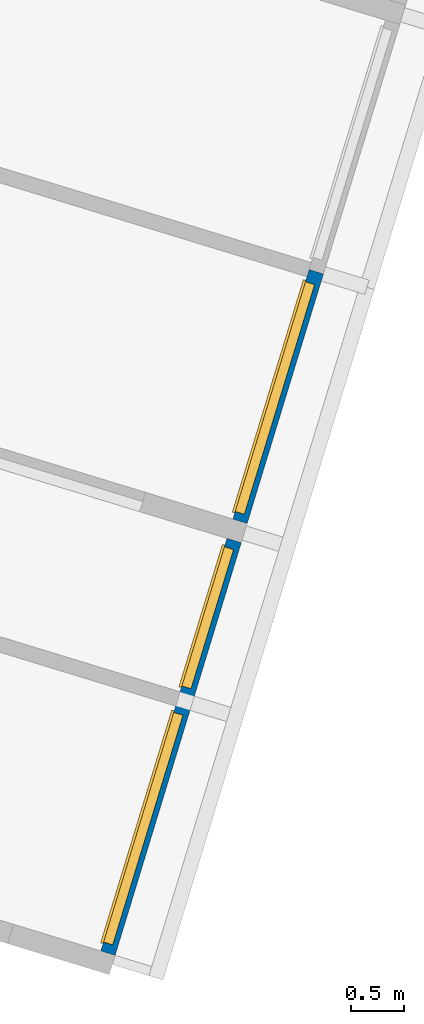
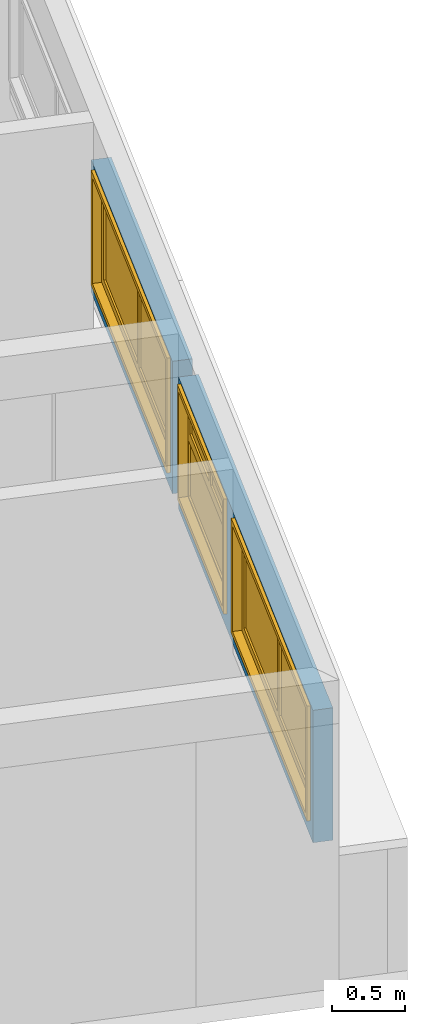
# One storey, part 7 of 18: 3 windows, 1 wall, 3 openings.
"""IFC2X3 building model written with IfcOpenShell, lengths in millimetres."""

from ifc_helpers import new_model, entity, si_unit, converted_unit, derived_unit, money_unit, direction, frame, origin_with_axes, place, context, subcontext, project, spatial, open_shell, faceted_brep, surface_model, source, transform, mapped, material, type_object, element, fill, save


model = new_model("IFC2X3")

# Units and contexts
model_context = context("Model", 3, precision=0.01, world=origin_with_axes(), true_north=direction((0.0, 1.0)))
body_context = subcontext(model_context, "Body", "Model", "MODEL_VIEW")
ifc_project = project(units=[si_unit("LENGTHUNIT", "METRE", prefix="MILLI"), si_unit("AREAUNIT", "SQUARE_METRE"), si_unit("VOLUMEUNIT", "CUBIC_METRE"), converted_unit("PLANEANGLEUNIT", "DEGREE", entity("IfcPlaneAngleMeasure", 0.0174532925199), si_unit("PLANEANGLEUNIT", "RADIAN"), dimensions=[0, 0, 0, 0, 0, 0, 0]), money_unit("USD"), converted_unit("TIMEUNIT", "Year", entity("IfcTimeMeasure", 31556926.0), si_unit("TIMEUNIT", "SECOND"), dimensions=[0, 0, 1, 0, 0, 0, 0]), si_unit("MASSUNIT", "GRAM", prefix="KILO"), si_unit("THERMODYNAMICTEMPERATUREUNIT", "DEGREE_CELSIUS"), si_unit("LUMINOUSINTENSITYUNIT", "LUMEN"), si_unit("ENERGYUNIT", "JOULE", prefix="MEGA"), derived_unit("THERMALCONDUCTANCEUNIT", [(si_unit("POWERUNIT", "WATT"), 1), (si_unit("LENGTHUNIT", "METRE"), -1), (si_unit("THERMODYNAMICTEMPERATUREUNIT", "KELVIN"), -1)]), derived_unit("SPECIFICHEATCAPACITYUNIT", [(si_unit("ENERGYUNIT", "JOULE"), 1), (si_unit("MASSUNIT", "GRAM", prefix="KILO"), -1), (si_unit("THERMODYNAMICTEMPERATUREUNIT", "KELVIN"), -1)]), derived_unit("MASSDENSITYUNIT", [(si_unit("MASSUNIT", "GRAM", prefix="KILO"), 1), (si_unit("VOLUMEUNIT", "CUBIC_METRE"), -1)])], contexts=[model_context])

# Site, building, storey, space
site_placement = place(None, frame((0.0, 0.0, 0.0), z_axis=(0.0, 0.0, 1.0), x_axis=(0.956304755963, -0.292371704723, 0.0)))
site = spatial("IfcSite", under=ifc_project, at=site_placement, Name="Site", CompositionType="ELEMENT")
building_placement = place(site_placement, origin_with_axes())
building = spatial("IfcBuilding", under=site, at=building_placement, Name="Building", CompositionType="ELEMENT")
storey_placement = place(building_placement, origin_with_axes())
storey = spatial("IfcBuildingStorey", under=building, at=storey_placement, Name="Pavimento tipo", CompositionType="ELEMENT", Elevation=0.0)
space_placement = place(storey_placement, frame((1481.71507604, 4250.00139822, 0.0), z_axis=(0.0, 0.0, 1.0), x_axis=(3.39571890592e-07, -1.0, 0.0)))
space = spatial("IfcSpace", under=storey, at=space_placement, Name="01", CompositionType="ELEMENT", InteriorOrExteriorSpace="INTERNAL")

# Wall, openings, windows
ifc_material = material(Name="Tijolo - Estrutural")
wall_type = type_object("IfcWallType", Name="Tijolo - Estrutural 140", PredefinedType="NOTDEFINED")
wall_placement = place(space_placement, frame((4060.00405293, 7959.99575953, 1100.0), z_axis=(0.0, 0.0, 1.0), x_axis=(-1.0, 4.64767034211e-07, 0.0)))
wall = element("IfcWall", 1, at=wall_placement, inside=space, type_object=wall_type, material=ifc_material, Name="Apt 01 - Parede 24", context=body_context, shape_type="Brep", body=[
    faceted_brep([(0.0, 140.0, 1100.0), (4059.9899685, 140.0, 1100.0), (4059.9899685, 140.0, 0.0), (0.0, 140.0, 0.0), (2347.50533222, 140.0, 1075.0), (87.5053322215, 140.0, 1075.0), (87.5053322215, 140.0, 150.0), (2347.50533222, 140.0, 150.0), (2607.50533222, 140.0, 150.0), (3977.50533222, 140.0, 150.0), (3977.50533222, 140.0, 1075.0), (2607.50533222, 140.0, 1075.0), (0.0, 0.0, 1100.0), (4059.98998602, -0.000732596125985, 1100.0), (4059.98998602, -0.000732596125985, 0.0), (0.0, 0.0, 0.0), (2347.50533222, 0.0, 1075.0), (87.5053322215, 0.0, 1075.0), (87.5053322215, 0.0, 150.0), (2347.50533222, 0.0, 150.0), (2607.50533222, -0.000732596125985, 150.0), (3977.50533222, -0.000732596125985, 150.0), (3977.50533222, -0.000732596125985, 1075.0), (2607.50533222, -0.000732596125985, 1075.0)], [[[0, 1, 2, 3], [4, 5, 6, 7], [8, 9, 10, 11]], [[12, 13, 1, 0]], [[2, 1, 13, 14]], [[3, 2, 14, 15]], [[12, 0, 3, 15]], [[4, 16, 17, 5]], [[17, 18, 6, 5]], [[18, 19, 7, 6]], [[7, 19, 16, 4]], [[9, 8, 20, 21]], [[22, 10, 9, 21]], [[23, 11, 10, 22]], [[8, 11, 23, 20]], [[15, 14, 13, 12], [19, 18, 17, 16], [23, 22, 21, 20]]]),
    faceted_brep([(4249.9899685, 140.0, 1100.0), (6705.00534975, 140.0, 1100.0), (6705.00534975, 140.0, 0.0), (4249.9899685, 140.0, 0.0), (4325.00533222, 140.0, 150.0), (6585.00533222, 140.0, 150.0), (6585.00533222, 140.0, 1075.0), (4325.00533222, 140.0, 1075.0), (4249.98998602, -0.000708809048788, 1100.0), (6705.00534975, 0.0, 1100.0), (6705.00534975, 0.0, 0.0), (4249.98998602, -0.000708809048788, 0.0), (4325.00533222, 0.0, 150.0), (6585.00533222, 0.0, 150.0), (6585.00533222, 0.0, 1075.0), (4325.00533222, 0.0, 1075.0)], [[[0, 1, 2, 3], [4, 5, 6, 7]], [[8, 9, 1, 0]], [[2, 1, 9, 10]], [[3, 2, 10, 11]], [[8, 0, 3, 11]], [[5, 4, 12, 13]], [[14, 6, 5, 13]], [[15, 7, 6, 14]], [[4, 7, 15, 12]], [[11, 10, 9, 8], [15, 14, 13, 12]]]),
])
opening_1_placement = place(wall_placement, frame((1217.50533222, 0.0, 150.0), z_axis=(0.0, 0.0, 1.0), x_axis=(1.0, 0.0, 0.0)))
opening_1 = element("IfcOpeningElement", 2, at=opening_1_placement, cuts=wall, Name="Apt 01 - J07", context=body_context, shape_type="Brep", body=[
    faceted_brep([(1145.0, 141.000839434, -15.0), (-1145.0, 141.000839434, -15.0), (-1145.0, 141.000839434, 940.0), (1145.0, 141.000839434, 940.0), (1145.0, 140.0, -15.0), (-1145.0, 140.0, -15.0), (-1145.0, 140.0, 940.0), (1145.0, 140.0, 940.0), (-1130.0, 140.0, 925.0), (1130.0, 140.0, 925.0), (1130.0, 140.0, 0.0), (-1130.0, 140.0, 0.0), (-1130.0, 50.0, 925.0), (-1130.0, -1.00083943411, 925.0), (1130.0, -1.00083943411, 925.0), (1130.0, 50.0, 925.0), (1130.0, 50.0, 0.0), (1130.0, -1.00083943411, 0.0), (-1130.0, -1.00083943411, 0.0), (-1130.0, 50.0, 0.0)], [[[0, 1, 2, 3]], [[4, 5, 1, 0]], [[5, 6, 2, 1]], [[6, 7, 3, 2]], [[7, 4, 0, 3]], [[6, 5, 4, 7], [8, 9, 10, 11]], [[9, 8, 12, 13, 14, 15]], [[10, 9, 15, 16]], [[11, 10, 16, 17, 18, 19]], [[8, 11, 19, 12]], [[12, 19, 18, 13]], [[13, 18, 17, 14]], [[16, 15, 14, 17]]]),
])
opening_2_placement = place(wall_placement, frame((5455.00533222, 0.0, 150.0), z_axis=(0.0, 0.0, 1.0), x_axis=(1.0, 0.0, 0.0)))
opening_2 = element("IfcOpeningElement", 3, at=opening_2_placement, cuts=wall, Name="Apt 01 - J09", context=body_context, shape_type="Brep", body=[
    faceted_brep([(-1145.0, 141.000839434, 940.0), (1145.0, 141.000839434, 940.0), (1145.0, 141.000839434, -15.0), (-1145.0, 141.000839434, -15.0), (-1145.0, 140.0, 940.0), (1145.0, 140.0, 940.0), (1145.0, 140.0, -15.0), (-1145.0, 140.0, -15.0), (-1130.0, 140.0, 925.0), (1130.0, 140.0, 925.0), (1130.0, 140.0, 0.0), (-1130.0, 140.0, 0.0), (-1130.0, 50.0, 925.0), (-1130.0, -1.00083943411, 925.0), (1130.0, -1.00083943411, 925.0), (1130.0, 50.0, 925.0), (1130.0, 50.0, 0.0), (1130.0, -1.00083943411, 0.0), (-1130.0, -1.00083943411, 0.0), (-1130.0, 50.0, 0.0)], [[[0, 1, 2, 3]], [[4, 5, 1, 0]], [[5, 6, 2, 1]], [[6, 7, 3, 2]], [[7, 4, 0, 3]], [[6, 5, 4, 7], [8, 9, 10, 11]], [[9, 8, 12, 13, 14, 15]], [[10, 9, 15, 16]], [[11, 10, 16, 17, 18, 19]], [[8, 11, 19, 12]], [[12, 19, 18, 13]], [[13, 18, 17, 14]], [[16, 15, 14, 17]]]),
])
opening_3_placement = place(wall_placement, frame((3292.50533222, 0.0, 150.0), z_axis=(0.0, 0.0, 1.0), x_axis=(1.0, 0.0, 0.0)))
opening_3 = element("IfcOpeningElement", 4, at=opening_3_placement, cuts=wall, Name="Apt 01 - J08", context=body_context, shape_type="Brep", body=[
    faceted_brep([(-700.0, 141.000839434, 940.0), (700.0, 141.000839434, 940.0), (700.0, 141.000839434, -15.0), (-700.0, 141.000839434, -15.0), (-700.0, 140.0, 940.0), (700.0, 140.0, 940.0), (700.0, 140.0, -15.0), (-700.0, 140.0, -15.0), (-685.0, 140.0, 925.0), (685.0, 140.0, 925.0), (685.0, 140.0, 0.0), (-685.0, 140.0, 0.0), (-685.0, 50.0, 925.0), (-685.0, -1.00083943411, 925.0), (685.0, -1.00083943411, 925.0), (685.0, 50.0, 925.0), (685.0, 50.0, 0.0), (685.0, -1.00083943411, 0.0), (-685.0, -1.00083943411, 0.0), (-685.0, 50.0, 0.0)], [[[0, 1, 2, 3]], [[4, 5, 1, 0]], [[5, 6, 2, 1]], [[6, 7, 3, 2]], [[7, 4, 0, 3]], [[6, 5, 4, 7], [8, 9, 10, 11]], [[9, 8, 12, 13, 14, 15]], [[10, 9, 15, 16]], [[11, 10, 16, 17, 18, 19]], [[8, 11, 19, 12]], [[12, 19, 18, 13]], [[13, 18, 17, 14]], [[16, 15, 14, 17]]]),
])
window_style_1 = type_object("IfcWindowStyle", Name="Janela 26", ConstructionType="NOTDEFINED", OperationType="DOUBLE_PANEL_VERTICAL", ParameterTakesPrecedence=False, Sizeable=False)
shared_shape_1 = source(origin_with_axes(), body_context, "Body", "SurfaceModel", [
    faceted_brep([(1130.0, 0.0, 0.0), (-1130.0, 0.0, 0.0), (-1130.0, 40.0, 0.0), (1130.0, 40.0, 0.0), (1130.0, 0.0, 925.0), (-1130.0, 0.0, 925.0), (1105.0, 0.0, 25.0), (-1105.0, 0.0, 25.0), (-1105.0, 0.0, 900.0), (1105.0, 0.0, 900.0), (-1130.0, 40.0, 925.0), (1130.0, 40.0, 925.0), (1105.0, 40.0, 25.0), (1105.0, 40.0, 900.0), (-1105.0, 40.0, 900.0), (-1105.0, 40.0, 25.0)], [[[0, 1, 2, 3]], [[0, 4, 5, 1], [6, 7, 8, 9]], [[1, 5, 10, 2]], [[3, 2, 10, 11], [12, 13, 14, 15]], [[4, 0, 3, 11]], [[5, 4, 11, 10]], [[7, 6, 12, 15]], [[8, 7, 15, 14]], [[9, 8, 14, 13]], [[6, 9, 13, 12]]]),
    faceted_brep([(1145.0, 65.0, -15.0), (1145.0, 40.0, -15.0), (1105.0, 40.0, 25.0), (1105.0, 65.0, 25.0), (1145.0, 65.0, 940.0), (1145.0, 40.0, 940.0), (1105.0, 40.0, 900.0), (1105.0, 65.0, 900.0)], [[[0, 1, 2, 3]], [[4, 5, 1, 0]], [[1, 5, 6, 2]], [[3, 2, 6, 7]], [[0, 3, 7, 4]], [[7, 6, 5, 4]]]),
    faceted_brep([(-1145.0, 65.0, 940.0), (-1145.0, 40.0, 940.0), (-1105.0, 40.0, 900.0), (-1105.0, 65.0, 900.0), (-1145.0, 65.0, -15.0), (-1145.0, 40.0, -15.0), (-1105.0, 40.0, 25.0), (-1105.0, 65.0, 25.0)], [[[0, 1, 2, 3]], [[4, 5, 1, 0]], [[1, 5, 6, 2]], [[3, 2, 6, 7]], [[0, 3, 7, 4]], [[7, 6, 5, 4]]]),
    faceted_brep([(-1145.0, 65.0, -15.0), (-1145.0, 40.0, -15.0), (-1105.0, 40.0, 25.0), (-1105.0, 65.0, 25.0), (1145.0, 65.0, -15.0), (1145.0, 40.0, -15.0), (1105.0, 40.0, 25.0), (1105.0, 65.0, 25.0)], [[[0, 1, 2, 3]], [[4, 5, 1, 0]], [[1, 5, 6, 2]], [[3, 2, 6, 7]], [[0, 3, 7, 4]], [[7, 6, 5, 4]]]),
    faceted_brep([(1145.0, 65.0, 940.0), (1145.0, 40.0, 940.0), (1105.0, 40.0, 900.0), (1105.0, 65.0, 900.0), (-1145.0, 65.0, 940.0), (-1145.0, 40.0, 940.0), (-1105.0, 40.0, 900.0), (-1105.0, 65.0, 900.0)], [[[0, 1, 2, 3]], [[4, 5, 1, 0]], [[1, 5, 6, 2]], [[3, 2, 6, 7]], [[0, 3, 7, 4]], [[7, 6, 5, 4]]]),
    faceted_brep([(1045.0, -50.0, 840.0), (1130.0, -50.0, 840.0), (1130.0, 0.0, 840.0), (1045.0, 0.0, 840.0), (1045.0, -50.0, 85.0), (1130.0, -50.0, 85.0), (1130.0, 0.0, 85.0), (1045.0, 0.0, 85.0)], [[[0, 1, 2, 3]], [[0, 4, 5, 1]], [[1, 5, 6, 2]], [[3, 2, 6, 7]], [[4, 0, 3, 7]], [[5, 4, 7, 6]]]),
    faceted_brep([(-1045.0, -50.0, 85.0), (-1130.0, -50.0, 85.0), (-1130.0, 0.0, 85.0), (-1045.0, 0.0, 85.0), (-1045.0, -50.0, 840.0), (-1130.0, -50.0, 840.0), (-1130.0, 0.0, 840.0), (-1045.0, 0.0, 840.0)], [[[0, 1, 2, 3]], [[0, 4, 5, 1]], [[1, 5, 6, 2]], [[3, 2, 6, 7]], [[4, 0, 3, 7]], [[5, 4, 7, 6]]]),
    faceted_brep([(1045.0, -50.0, 85.0), (1130.0, -50.0, 85.0), (1130.0, 0.0, 85.0), (1045.0, 0.0, 85.0), (25.0, -50.0, 85.0), (-25.0, -50.0, 85.0), (-1045.0, -50.0, 85.0), (-1130.0, -50.0, 85.0), (-1130.0, -50.0, 0.0), (1130.0, -50.0, 0.0), (1130.0, 0.0, 0.0), (-1130.0, 0.0, 0.0), (-1130.0, 0.0, 85.0), (-1045.0, 0.0, 85.0), (-25.0, 0.0, 85.0), (25.0, 0.0, 85.0)], [[[0, 1, 2, 3]], [[0, 4, 5, 6, 7, 8, 9, 1]], [[1, 9, 10, 2]], [[3, 2, 10, 11, 12, 13, 14, 15]], [[4, 0, 3, 15]], [[5, 4, 15, 14]], [[6, 5, 14, 13]], [[7, 6, 13, 12]], [[8, 7, 12, 11]], [[9, 8, 11, 10]]]),
    faceted_brep([(25.0, -50.0, 840.0), (-25.0, -50.0, 840.0), (-25.0, 0.0, 840.0), (25.0, 0.0, 840.0), (1045.0, -50.0, 840.0), (1130.0, -50.0, 840.0), (1130.0, -50.0, 925.0), (-1130.0, -50.0, 925.0), (-1130.0, -50.0, 840.0), (-1045.0, -50.0, 840.0), (-1045.0, 0.0, 840.0), (-1130.0, 0.0, 840.0), (-1130.0, 0.0, 925.0), (1130.0, 0.0, 925.0), (1130.0, 0.0, 840.0), (1045.0, 0.0, 840.0)], [[[0, 1, 2, 3]], [[0, 4, 5, 6, 7, 8, 9, 1]], [[1, 9, 10, 2]], [[3, 2, 10, 11, 12, 13, 14, 15]], [[4, 0, 3, 15]], [[5, 4, 15, 14]], [[6, 5, 14, 13]], [[7, 6, 13, 12]], [[8, 7, 12, 11]], [[9, 8, 11, 10]]]),
    faceted_brep([(25.0, -50.0, 85.0), (-25.0, -50.0, 85.0), (-25.0, 0.0, 85.0), (25.0, 0.0, 85.0), (25.0, -50.0, 840.0), (-25.0, -50.0, 840.0), (-25.0, 0.0, 840.0), (25.0, 0.0, 840.0)], [[[0, 1, 2, 3]], [[0, 4, 5, 1]], [[1, 5, 6, 2]], [[3, 2, 6, 7]], [[4, 0, 3, 7]], [[5, 4, 7, 6]]]),
    surface_model("IfcShellBasedSurfaceModel", [(-25.0, -35.0, 85.0), (-25.0, -35.0, 840.0), (-1045.0, -35.0, 840.0), (-1045.0, -35.0, 85.0)], [open_shell([[[0, 1, 2, 3]]])]),
    surface_model("IfcShellBasedSurfaceModel", [(-25.0, -15.0, 85.0), (-1045.0, -15.0, 85.0), (-1045.0, -15.0, 840.0), (-25.0, -15.0, 840.0)], [open_shell([[[0, 1, 2, 3]]])]),
    surface_model("IfcShellBasedSurfaceModel", [(1045.0, -35.0, 85.0), (1045.0, -35.0, 840.0), (25.0, -35.0, 840.0), (25.0, -35.0, 85.0)], [open_shell([[[0, 1, 2, 3]]])]),
    surface_model("IfcShellBasedSurfaceModel", [(1045.0, -15.0, 85.0), (25.0, -15.0, 85.0), (25.0, -15.0, 840.0), (1045.0, -15.0, 840.0)], [open_shell([[[0, 1, 2, 3]]])]),
])
window_1_placement = place(opening_1_placement, frame((-1130.0, 0.0, 0.0), z_axis=(0.0, 0.0, 1.0), x_axis=(1.0, 0.0, 0.0)))
window_1 = element("IfcWindow", 5, at=window_1_placement, inside=space, type_object=window_style_1, Name="Apt 01 - J07", OverallHeight=925.0, OverallWidth=2260.0, context=body_context, shape_type="MappedRepresentation", body=[
    mapped(shared_shape_1, transform((1130.0, 100.0, 0.0))),
])
fill(opening_1, window_1)
window_style_2 = type_object("IfcWindowStyle", Name="Janela 26", ConstructionType="NOTDEFINED", OperationType="DOUBLE_PANEL_VERTICAL", ParameterTakesPrecedence=False, Sizeable=False)
shared_shape_2 = source(origin_with_axes(), body_context, "Body", "SurfaceModel", [
    faceted_brep([(-1130.0, 0.0, 0.0), (-1130.0, 40.0, 0.0), (1130.0, 40.0, 0.0), (1130.0, 0.0, 0.0), (-1130.0, 0.0, 925.0), (-1130.0, 40.0, 925.0), (1130.0, 40.0, 925.0), (-1105.0, 40.0, 25.0), (1105.0, 40.0, 25.0), (1105.0, 40.0, 900.0), (-1105.0, 40.0, 900.0), (1130.0, 0.0, 925.0), (-1105.0, 0.0, 25.0), (-1105.0, 0.0, 900.0), (1105.0, 0.0, 900.0), (1105.0, 0.0, 25.0)], [[[0, 1, 2, 3]], [[4, 5, 1, 0]], [[1, 5, 6, 2], [7, 8, 9, 10]], [[3, 2, 6, 11]], [[0, 3, 11, 4], [12, 13, 14, 15]], [[11, 6, 5, 4]], [[15, 8, 7, 12]], [[14, 9, 8, 15]], [[13, 10, 9, 14]], [[12, 7, 10, 13]]]),
    faceted_brep([(-1145.0, 65.0, -15.0), (-1105.0, 65.0, 25.0), (-1105.0, 40.0, 25.0), (-1145.0, 40.0, -15.0), (-1145.0, 65.0, 940.0), (-1105.0, 65.0, 900.0), (-1105.0, 40.0, 900.0), (-1145.0, 40.0, 940.0)], [[[0, 1, 2, 3]], [[0, 4, 5, 1]], [[1, 5, 6, 2]], [[3, 2, 6, 7]], [[4, 0, 3, 7]], [[5, 4, 7, 6]]]),
    faceted_brep([(1145.0, 65.0, 940.0), (1105.0, 65.0, 900.0), (1105.0, 40.0, 900.0), (1145.0, 40.0, 940.0), (1145.0, 65.0, -15.0), (1105.0, 65.0, 25.0), (1105.0, 40.0, 25.0), (1145.0, 40.0, -15.0)], [[[0, 1, 2, 3]], [[0, 4, 5, 1]], [[1, 5, 6, 2]], [[3, 2, 6, 7]], [[4, 0, 3, 7]], [[5, 4, 7, 6]]]),
    faceted_brep([(1145.0, 65.0, -15.0), (1105.0, 65.0, 25.0), (1105.0, 40.0, 25.0), (1145.0, 40.0, -15.0), (-1145.0, 65.0, -15.0), (-1105.0, 65.0, 25.0), (-1105.0, 40.0, 25.0), (-1145.0, 40.0, -15.0)], [[[0, 1, 2, 3]], [[0, 4, 5, 1]], [[1, 5, 6, 2]], [[3, 2, 6, 7]], [[4, 0, 3, 7]], [[5, 4, 7, 6]]]),
    faceted_brep([(-1145.0, 65.0, 940.0), (-1105.0, 65.0, 900.0), (-1105.0, 40.0, 900.0), (-1145.0, 40.0, 940.0), (1145.0, 65.0, 940.0), (1105.0, 65.0, 900.0), (1105.0, 40.0, 900.0), (1145.0, 40.0, 940.0)], [[[0, 1, 2, 3]], [[0, 4, 5, 1]], [[1, 5, 6, 2]], [[3, 2, 6, 7]], [[4, 0, 3, 7]], [[5, 4, 7, 6]]]),
    faceted_brep([(-1045.0, -50.0, 840.0), (-1045.0, 0.0, 840.0), (-1130.0, 0.0, 840.0), (-1130.0, -50.0, 840.0), (-1045.0, -50.0, 85.0), (-1045.0, 0.0, 85.0), (-1130.0, 0.0, 85.0), (-1130.0, -50.0, 85.0)], [[[0, 1, 2, 3]], [[4, 5, 1, 0]], [[1, 5, 6, 2]], [[3, 2, 6, 7]], [[0, 3, 7, 4]], [[7, 6, 5, 4]]]),
    faceted_brep([(1045.0, -50.0, 85.0), (1045.0, 0.0, 85.0), (1130.0, 0.0, 85.0), (1130.0, -50.0, 85.0), (1045.0, -50.0, 840.0), (1045.0, 0.0, 840.0), (1130.0, 0.0, 840.0), (1130.0, -50.0, 840.0)], [[[0, 1, 2, 3]], [[4, 5, 1, 0]], [[1, 5, 6, 2]], [[3, 2, 6, 7]], [[0, 3, 7, 4]], [[7, 6, 5, 4]]]),
    faceted_brep([(-1045.0, -50.0, 85.0), (-1045.0, 0.0, 85.0), (-1130.0, 0.0, 85.0), (-1130.0, -50.0, 85.0), (-25.0, -50.0, 85.0), (-25.0, 0.0, 85.0), (25.0, 0.0, 85.0), (1045.0, 0.0, 85.0), (1130.0, 0.0, 85.0), (1130.0, 0.0, 0.0), (-1130.0, 0.0, 0.0), (-1130.0, -50.0, 0.0), (1130.0, -50.0, 0.0), (1130.0, -50.0, 85.0), (1045.0, -50.0, 85.0), (25.0, -50.0, 85.0)], [[[0, 1, 2, 3]], [[4, 5, 1, 0]], [[1, 5, 6, 7, 8, 9, 10, 2]], [[3, 2, 10, 11]], [[0, 3, 11, 12, 13, 14, 15, 4]], [[15, 6, 5, 4]], [[14, 7, 6, 15]], [[13, 8, 7, 14]], [[12, 9, 8, 13]], [[11, 10, 9, 12]]]),
    faceted_brep([(-25.0, -50.0, 840.0), (-25.0, 0.0, 840.0), (25.0, 0.0, 840.0), (25.0, -50.0, 840.0), (-1045.0, -50.0, 840.0), (-1045.0, 0.0, 840.0), (-1130.0, 0.0, 840.0), (-1130.0, 0.0, 925.0), (1130.0, 0.0, 925.0), (1130.0, 0.0, 840.0), (1045.0, 0.0, 840.0), (1045.0, -50.0, 840.0), (1130.0, -50.0, 840.0), (1130.0, -50.0, 925.0), (-1130.0, -50.0, 925.0), (-1130.0, -50.0, 840.0)], [[[0, 1, 2, 3]], [[4, 5, 1, 0]], [[1, 5, 6, 7, 8, 9, 10, 2]], [[3, 2, 10, 11]], [[0, 3, 11, 12, 13, 14, 15, 4]], [[15, 6, 5, 4]], [[14, 7, 6, 15]], [[13, 8, 7, 14]], [[12, 9, 8, 13]], [[11, 10, 9, 12]]]),
    faceted_brep([(-25.0, -50.0, 85.0), (-25.0, 0.0, 85.0), (25.0, 0.0, 85.0), (25.0, -50.0, 85.0), (-25.0, -50.0, 840.0), (-25.0, 0.0, 840.0), (25.0, 0.0, 840.0), (25.0, -50.0, 840.0)], [[[0, 1, 2, 3]], [[4, 5, 1, 0]], [[1, 5, 6, 2]], [[3, 2, 6, 7]], [[0, 3, 7, 4]], [[7, 6, 5, 4]]]),
    surface_model("IfcShellBasedSurfaceModel", [(25.0, -35.0, 85.0), (1045.0, -35.0, 85.0), (1045.0, -35.0, 840.0), (25.0, -35.0, 840.0)], [open_shell([[[0, 1, 2, 3]]])]),
    surface_model("IfcShellBasedSurfaceModel", [(25.0, -15.0, 85.0), (25.0, -15.0, 840.0), (1045.0, -15.0, 840.0), (1045.0, -15.0, 85.0)], [open_shell([[[0, 1, 2, 3]]])]),
    surface_model("IfcShellBasedSurfaceModel", [(-1045.0, -35.0, 85.0), (-25.0, -35.0, 85.0), (-25.0, -35.0, 840.0), (-1045.0, -35.0, 840.0)], [open_shell([[[0, 1, 2, 3]]])]),
    surface_model("IfcShellBasedSurfaceModel", [(-1045.0, -15.0, 85.0), (-1045.0, -15.0, 840.0), (-25.0, -15.0, 840.0), (-25.0, -15.0, 85.0)], [open_shell([[[0, 1, 2, 3]]])]),
])
window_2_placement = place(opening_2_placement, frame((-1130.0, 0.0, 0.0), z_axis=(0.0, 0.0, 1.0), x_axis=(1.0, 0.0, 0.0)))
window_2 = element("IfcWindow", 6, at=window_2_placement, inside=space, type_object=window_style_2, Name="Apt 01 - J09", OverallHeight=925.0, OverallWidth=2260.0, context=body_context, shape_type="MappedRepresentation", body=[
    mapped(shared_shape_2, transform((1130.0, 100.0, 0.0))),
])
fill(opening_2, window_2)
window_style_3 = type_object("IfcWindowStyle", Name="Janela 26", ConstructionType="NOTDEFINED", OperationType="TRIPLE_PANEL_BOTTOM", ParameterTakesPrecedence=False, Sizeable=False)
window_3_placement = place(opening_3_placement, frame((-685.0, 0.0, 0.0), z_axis=(0.0, 0.0, 1.0), x_axis=(1.0, 0.0, 0.0)))
window_3 = element("IfcWindow", 7, at=window_3_placement, inside=space, type_object=window_style_3, Name="Apt 01 - J08", OverallHeight=925.0, OverallWidth=1370.0, context=body_context, shape_type="SurfaceModel", body=[
    faceted_brep([(0.0, 100.0, 0.0), (0.0, 140.0, 0.0), (1370.0, 140.0, 0.0), (1370.0, 100.0, 0.0), (0.0, 100.0, 925.0), (0.0, 140.0, 925.0), (1370.0, 140.0, 925.0), (25.0, 140.0, 25.0), (1345.0, 140.0, 25.0), (1345.0, 140.0, 900.0), (25.0, 140.0, 900.0), (1370.0, 100.0, 925.0), (25.0, 100.0, 25.0), (25.0, 100.0, 900.0), (1345.0, 100.0, 900.0), (1345.0, 100.0, 25.0)], [[[0, 1, 2, 3]], [[4, 5, 1, 0]], [[1, 5, 6, 2], [7, 8, 9, 10]], [[3, 2, 6, 11]], [[0, 3, 11, 4], [12, 13, 14, 15]], [[11, 6, 5, 4]], [[15, 8, 7, 12]], [[14, 9, 8, 15]], [[13, 10, 9, 14]], [[12, 7, 10, 13]]]),
    faceted_brep([(-15.0, 165.0, -15.0), (25.0, 165.0, 25.0), (25.0, 140.0, 25.0), (-15.0, 140.0, -15.0), (-15.0, 165.0, 940.0), (25.0, 165.0, 900.0), (25.0, 140.0, 900.0), (-15.0, 140.0, 940.0)], [[[0, 1, 2, 3]], [[0, 4, 5, 1]], [[1, 5, 6, 2]], [[3, 2, 6, 7]], [[4, 0, 3, 7]], [[5, 4, 7, 6]]]),
    faceted_brep([(1385.0, 165.0, 940.0), (1345.0, 165.0, 900.0), (1345.0, 140.0, 900.0), (1385.0, 140.0, 940.0), (1385.0, 165.0, -15.0), (1345.0, 165.0, 25.0), (1345.0, 140.0, 25.0), (1385.0, 140.0, -15.0)], [[[0, 1, 2, 3]], [[0, 4, 5, 1]], [[1, 5, 6, 2]], [[3, 2, 6, 7]], [[4, 0, 3, 7]], [[5, 4, 7, 6]]]),
    faceted_brep([(1385.0, 165.0, -15.0), (1345.0, 165.0, 25.0), (1345.0, 140.0, 25.0), (1385.0, 140.0, -15.0), (-15.0, 165.0, -15.0), (25.0, 165.0, 25.0), (25.0, 140.0, 25.0), (-15.0, 140.0, -15.0)], [[[0, 1, 2, 3]], [[0, 4, 5, 1]], [[1, 5, 6, 2]], [[3, 2, 6, 7]], [[4, 0, 3, 7]], [[5, 4, 7, 6]]]),
    faceted_brep([(-15.0, 165.0, 940.0), (25.0, 165.0, 900.0), (25.0, 140.0, 900.0), (-15.0, 140.0, 940.0), (1385.0, 165.0, 940.0), (1345.0, 165.0, 900.0), (1345.0, 140.0, 900.0), (1385.0, 140.0, 940.0)], [[[0, 1, 2, 3]], [[0, 4, 5, 1]], [[1, 5, 6, 2]], [[3, 2, 6, 7]], [[4, 0, 3, 7]], [[5, 4, 7, 6]]]),
    faceted_brep([(35.0, 50.0, 500.0), (35.0, 100.0, 500.0), (85.0, 100.0, 585.0), (85.0, 50.0, 585.0), (35.0, 50.0, 35.0), (35.0, 100.0, 35.0), (0.0, 100.0, 35.0), (0.0, 100.0, 840.0), (85.0, 100.0, 840.0), (85.0, 50.0, 840.0), (0.0, 50.0, 840.0), (0.0, 50.0, 35.0)], [[[0, 1, 2, 3]], [[4, 5, 1, 0]], [[1, 5, 6, 7, 8, 2]], [[3, 2, 8, 9]], [[0, 3, 9, 10, 11, 4]], [[11, 6, 5, 4]], [[10, 7, 6, 11]], [[9, 8, 7, 10]]]),
    faceted_brep([(1335.0, 50.0, 35.0), (1335.0, 100.0, 35.0), (1370.0, 100.0, 35.0), (1370.0, 50.0, 35.0), (1335.0, 50.0, 500.0), (1335.0, 100.0, 500.0), (1285.0, 100.0, 585.0), (1285.0, 100.0, 840.0), (1370.0, 100.0, 840.0), (1370.0, 50.0, 840.0), (1285.0, 50.0, 840.0), (1285.0, 50.0, 585.0)], [[[0, 1, 2, 3]], [[4, 5, 1, 0]], [[1, 5, 6, 7, 8, 2]], [[3, 2, 8, 9]], [[0, 3, 9, 10, 11, 4]], [[11, 6, 5, 4]], [[10, 7, 6, 11]], [[9, 8, 7, 10]]]),
    faceted_brep([(85.0, 50.0, 585.0), (85.0, 100.0, 585.0), (35.0, 100.0, 500.0), (35.0, 50.0, 500.0), (660.0, 50.0, 585.0), (660.0, 100.0, 585.0), (710.0, 100.0, 585.0), (1285.0, 100.0, 585.0), (1335.0, 100.0, 500.0), (1335.0, 50.0, 500.0), (1285.0, 50.0, 585.0), (710.0, 50.0, 585.0)], [[[0, 1, 2, 3]], [[4, 5, 1, 0]], [[1, 5, 6, 7, 8, 2]], [[3, 2, 8, 9]], [[0, 3, 9, 10, 11, 4]], [[11, 6, 5, 4]], [[10, 7, 6, 11]], [[9, 8, 7, 10]]]),
    faceted_brep([(35.0, 50.0, 35.0), (35.0, 100.0, 35.0), (0.0, 100.0, 35.0), (0.0, 50.0, 35.0), (1335.0, 50.0, 35.0), (1335.0, 100.0, 35.0), (1370.0, 100.0, 35.0), (1370.0, 100.0, 0.0), (0.0, 100.0, 0.0), (0.0, 50.0, 0.0), (1370.0, 50.0, 0.0), (1370.0, 50.0, 35.0)], [[[0, 1, 2, 3]], [[4, 5, 1, 0]], [[1, 5, 6, 7, 8, 2]], [[3, 2, 8, 9]], [[0, 3, 9, 10, 11, 4]], [[11, 6, 5, 4]], [[10, 7, 6, 11]], [[9, 8, 7, 10]]]),
    faceted_brep([(660.0, 50.0, 840.0), (660.0, 100.0, 840.0), (710.0, 100.0, 840.0), (710.0, 50.0, 840.0), (85.0, 50.0, 840.0), (85.0, 100.0, 840.0), (0.0, 100.0, 840.0), (0.0, 100.0, 925.0), (1370.0, 100.0, 925.0), (1370.0, 100.0, 840.0), (1285.0, 100.0, 840.0), (1285.0, 50.0, 840.0), (1370.0, 50.0, 840.0), (1370.0, 50.0, 925.0), (0.0, 50.0, 925.0), (0.0, 50.0, 840.0)], [[[0, 1, 2, 3]], [[4, 5, 1, 0]], [[1, 5, 6, 7, 8, 9, 10, 2]], [[3, 2, 10, 11]], [[0, 3, 11, 12, 13, 14, 15, 4]], [[15, 6, 5, 4]], [[14, 7, 6, 15]], [[13, 8, 7, 14]], [[12, 9, 8, 13]], [[11, 10, 9, 12]]]),
    faceted_brep([(660.0, 50.0, 585.0), (660.0, 100.0, 585.0), (710.0, 100.0, 585.0), (710.0, 50.0, 585.0), (660.0, 50.0, 840.0), (660.0, 100.0, 840.0), (710.0, 100.0, 840.0), (710.0, 50.0, 840.0)], [[[0, 1, 2, 3]], [[4, 5, 1, 0]], [[1, 5, 6, 2]], [[3, 2, 6, 7]], [[0, 3, 7, 4]], [[7, 6, 5, 4]]]),
    surface_model("IfcShellBasedSurfaceModel", [(710.0, 65.0, 585.0), (1285.0, 65.0, 585.0), (1285.0, 65.0, 840.0), (710.0, 65.0, 840.0)], [open_shell([[[0, 1, 2, 3]]])]),
    surface_model("IfcShellBasedSurfaceModel", [(710.0, 85.0, 585.0), (710.0, 85.0, 840.0), (1285.0, 85.0, 840.0), (1285.0, 85.0, 585.0)], [open_shell([[[0, 1, 2, 3]]])]),
    surface_model("IfcShellBasedSurfaceModel", [(85.0, 65.0, 585.0), (660.0, 65.0, 585.0), (660.0, 65.0, 840.0), (85.0, 65.0, 840.0)], [open_shell([[[0, 1, 2, 3]]])]),
    surface_model("IfcShellBasedSurfaceModel", [(85.0, 85.0, 585.0), (85.0, 85.0, 840.0), (660.0, 85.0, 840.0), (660.0, 85.0, 585.0)], [open_shell([[[0, 1, 2, 3]]])]),
    surface_model("IfcShellBasedSurfaceModel", [(35.0, 65.0, 35.0), (1335.0, 65.0, 35.0), (1335.0, 65.0, 500.0), (35.0, 65.0, 500.0)], [open_shell([[[0, 1, 2, 3]]])]),
    surface_model("IfcShellBasedSurfaceModel", [(35.0, 85.0, 35.0), (35.0, 85.0, 500.0), (1335.0, 85.0, 500.0), (1335.0, 85.0, 35.0)], [open_shell([[[0, 1, 2, 3]]])]),
])
fill(opening_3, window_3)

save(model, "model.ifc")
